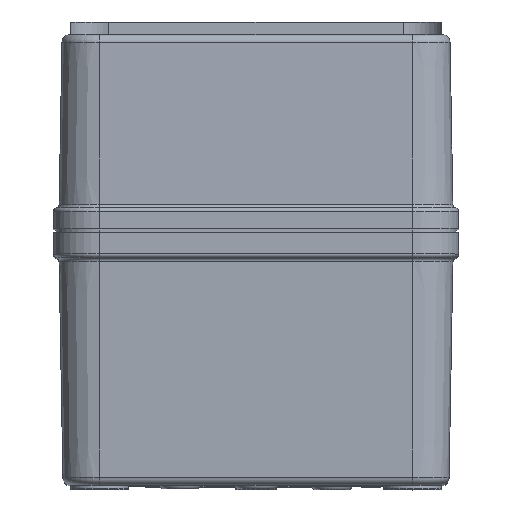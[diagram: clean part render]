
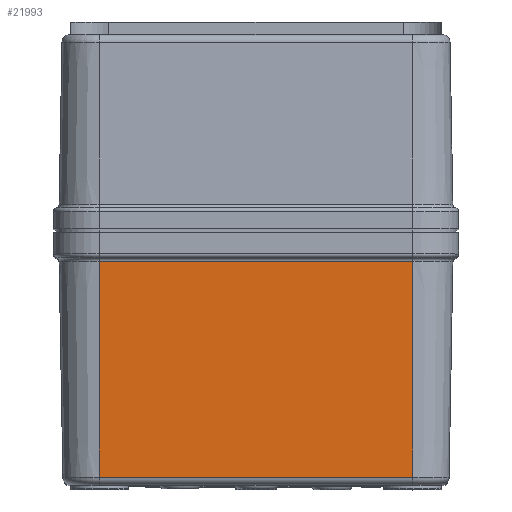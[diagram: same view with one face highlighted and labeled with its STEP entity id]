
A CAD part, top view. The second image highlights one B-rep face of the part: STEP entity #21993.
In plain terms, the highlighted planar face has unit normal (0, -0.018, 1) as drawn and (-1, 0, -0.017) by its records, which use the part's own axes.
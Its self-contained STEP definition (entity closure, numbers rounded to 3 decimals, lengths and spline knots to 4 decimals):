
#1258=FACE_OUTER_BOUND('',#2603,.T.);
#2603=EDGE_LOOP('',(#14713,#14714,#14715,#14716));
#4099=LINE('',#31739,#6207);
#4119=LINE('',#31822,#6227);
#4120=LINE('',#31825,#6228);
#4121=LINE('',#31826,#6229);
#6207=VECTOR('',#25529,2.441);
#6227=VECTOR('',#25637,1.6811);
#6228=VECTOR('',#25640,2.441);
#6229=VECTOR('',#25641,1.6811);
#9155=VERTEX_POINT('',#31732);
#9157=VERTEX_POINT('',#31738);
#9176=VERTEX_POINT('',#31820);
#9177=VERTEX_POINT('',#31824);
#11291=EDGE_CURVE('',#9157,#9155,#4099,.T.);
#11333=EDGE_CURVE('',#9155,#9176,#4119,.T.);
#11334=EDGE_CURVE('',#9177,#9176,#4120,.T.);
#11335=EDGE_CURVE('',#9157,#9177,#4121,.T.);
#14713=ORIENTED_EDGE('',*,*,#11291,.T.);
#14714=ORIENTED_EDGE('',*,*,#11333,.T.);
#14715=ORIENTED_EDGE('',*,*,#11334,.F.);
#14716=ORIENTED_EDGE('',*,*,#11335,.F.);
#21229=PLANE('',#23470);
#21993=ADVANCED_FACE('',(#1258),#21229,.T.);
#23470=AXIS2_PLACEMENT_3D('',#31823,#25638,#25639);
#25529=DIRECTION('',(0.,1.,0.));
#25637=DIRECTION('',(0.017,0.,-1.));
#25638=DIRECTION('center_axis',(-1.,0.,-0.017));
#25639=DIRECTION('ref_axis',(0.,-1.,0.));
#25640=DIRECTION('',(0.,1.,0.));
#25641=DIRECTION('',(0.017,0.,-1.));
#31732=CARTESIAN_POINT('',(-2.5179,1.2205,-0.2223));
#31738=CARTESIAN_POINT('',(-2.5179,-1.2205,-0.2223));
#31739=CARTESIAN_POINT('',(-2.5179,-1.2205,-0.2223));
#31820=CARTESIAN_POINT('',(-2.4885,1.2205,-1.9031));
#31822=CARTESIAN_POINT('',(-2.5179,1.2205,-0.2223));
#31823=CARTESIAN_POINT('Origin',(-2.5218,-1.2999,0.));
#31824=CARTESIAN_POINT('',(-2.4885,-1.2205,-1.9031));
#31825=CARTESIAN_POINT('',(-2.4885,-1.2205,-1.9031));
#31826=CARTESIAN_POINT('',(-2.5179,-1.2205,-0.2223));
